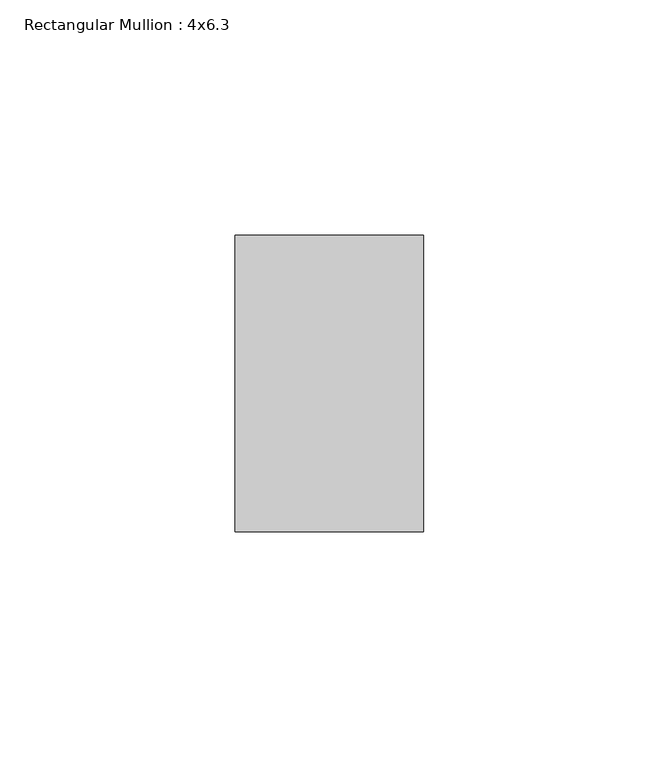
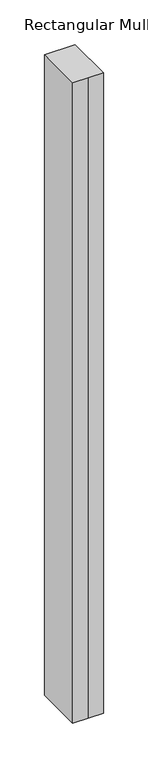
"""IFC4 building model written with IfcOpenShell, lengths in millimetres: member geometry, Rectangular Mullion : 4x6.3."""

import ifcopenshell
import ifcopenshell.guid

model = None  # the IFC model being written
_history = None  # IfcOwnerHistory: only IFC2X3 demands one
_inside = {}  # id of a spatial element -> (the spatial element, [elements in it])
_under = {}  # id of a project, library or spatial element -> (it, [spatial elements below it])
_declared = {}  # id of a project -> (the project, [libraries it declares])
_typed = {}  # id of a type object -> (the type object, [elements of that type])
_made_of = {}  # id of a material, layer set ... -> (it, [elements and type objects made of it])


def new_model(schema):
    """Start an empty IFC model of exactly this schema.

    Asked for "IFC4X3", IfcOpenShell would pick the latest addendum, in which some entities
    have other attributes; the version numbers below select the first issue.
    IFC2X3 requires an IfcOwnerHistory on every rooted entity: one is made here for all.
    """
    global model, _history
    if schema == "IFC4X3":
        model = ifcopenshell.file(schema_version=(4, 3, 0, 0))
    else:
        model = ifcopenshell.file(schema=schema)
    _inside.clear()
    _under.clear()
    _declared.clear()
    _typed.clear()
    _made_of.clear()
    _history = None
    if model.schema == "IFC2X3":
        org = make("IfcOrganization", Name="unknown")
        user = make(
            "IfcPersonAndOrganization",
            ThePerson=make("IfcPerson", FamilyName="unknown"),
            TheOrganization=org,
        )
        app = make(
            "IfcApplication",
            ApplicationDeveloper=org,
            Version="unknown",
            ApplicationFullName="unknown",
            ApplicationIdentifier="unknown",
        )
        _history = make(
            "IfcOwnerHistory",
            OwningUser=user,
            OwningApplication=app,
            ChangeAction="ADDED",
            CreationDate=0,
        )
    return model


def make(cls, **values):
    """One entity of the class cls with the attributes given. An attribute that is None is left unset."""
    return model.create_entity(
        cls, **{name: value for name, value in values.items() if value is not None}
    )


def rooted(cls, **values):
    """An entity with a GlobalId (a new one), such as an element, a storey or a relation."""
    return make(cls, GlobalId=ifcopenshell.guid.new(), OwnerHistory=_history, **values)


def si_unit(unit_type, name, prefix=None):
    """IfcSIUnit, for example si_unit("LENGTHUNIT", "METRE", prefix="MILLI")."""
    return make("IfcSIUnit", UnitType=unit_type, Prefix=prefix, Name=name)


def assignment(units):
    """IfcUnitAssignment: the units of a project."""
    return None if units is None else make("IfcUnitAssignment", Units=units)


def point(xyz):
    """IfcCartesianPoint."""
    return None if xyz is None else make("IfcCartesianPoint", Coordinates=xyz)


def direction(xyz):
    """IfcDirection."""
    return None if xyz is None else make("IfcDirection", DirectionRatios=xyz)


def frame(location, z_axis=None, x_axis=None):
    """IfcAxis2Placement3D, a coordinate frame: its origin and axes. An axis left out is left unset."""
    return make(
        "IfcAxis2Placement3D",
        Location=point(location),
        Axis=direction(z_axis),
        RefDirection=direction(x_axis),
    )


def origin():
    """The frame at (0, 0, 0) with its axes left unset."""
    return frame((0.0, 0.0, 0.0))


def place(relative_to, where):
    """IfcLocalPlacement: puts the frame where relative to a parent placement (None: the world)."""
    return make(
        "IfcLocalPlacement", PlacementRelTo=relative_to, RelativePlacement=where
    )


def context(
    kind, dimensions, precision=None, world=None, true_north=None, identifier=None
):
    """IfcGeometricRepresentationContext, for example the 3D "Model" context."""
    return make(
        "IfcGeometricRepresentationContext",
        ContextIdentifier=identifier,
        ContextType=kind,
        CoordinateSpaceDimension=dimensions,
        Precision=precision,
        WorldCoordinateSystem=world,
        TrueNorth=true_north,
    )


def project(units=None, contexts=None):
    """IfcProject with its units and contexts."""
    return rooted(
        "IfcProject",
        Name="project",
        RepresentationContexts=contexts,
        UnitsInContext=assignment(units),
    )


def spatial(cls, under=None, at=None, **own):
    """A site, building, storey or space (cls), placed at a placement, below another one or the project."""
    s = rooted(cls, ObjectPlacement=at, **own)
    if under is not None:
        _under.setdefault(under.id(), (under, []))[1].append(s)
    return s


def polyline(points):
    """IfcPolyline through the points."""
    return make("IfcPolyline", Points=[point(p) for p in points])


def outline(outer, holes=None, kind="AREA"):
    """IfcArbitraryClosedProfileDef: a profile drawn as a closed curve; with holes, ...WithVoids."""
    if holes is None:
        return make("IfcArbitraryClosedProfileDef", ProfileType=kind, OuterCurve=outer)
    return make(
        "IfcArbitraryProfileDefWithVoids",
        ProfileType=kind,
        OuterCurve=outer,
        InnerCurves=holes,
    )


def extrude(swept, where, along, depth):
    """IfcExtrudedAreaSolid: the profile swept, set in the frame where, extruded along a direction by depth."""
    return make(
        "IfcExtrudedAreaSolid",
        SweptArea=swept,
        Position=where,
        ExtrudedDirection=direction(along),
        Depth=depth,
    )


def shape(context_of_items, identifier, shape_type, items):
    """IfcShapeRepresentation: the items that make up one representation, for example the "Body"."""
    return make(
        "IfcShapeRepresentation",
        ContextOfItems=context_of_items,
        RepresentationIdentifier=identifier,
        RepresentationType=shape_type,
        Items=items,
    )


def source(mapping_origin, context_of_items, identifier, shape_type, items):
    """IfcRepresentationMap: a shape defined once, which mapped items show again and again."""
    return make(
        "IfcRepresentationMap",
        MappingOrigin=mapping_origin,
        MappedRepresentation=shape(context_of_items, identifier, shape_type, items),
    )


def transform(
    local_origin,
    x_axis=None,
    y_axis=None,
    z_axis=None,
    scale=None,
    scale2=None,
    scale3=None,
    uniform=True,
):
    """IfcCartesianTransformationOperator3D, or its non-uniform kind. x_axis, y_axis, z_axis: its Axis1, 2, 3."""
    if uniform:
        return make(
            "IfcCartesianTransformationOperator3D",
            Axis1=direction(x_axis),
            Axis2=direction(y_axis),
            LocalOrigin=point(local_origin),
            Scale=scale,
            Axis3=direction(z_axis),
        )
    return make(
        "IfcCartesianTransformationOperator3DnonUniform",
        Axis1=direction(x_axis),
        Axis2=direction(y_axis),
        LocalOrigin=point(local_origin),
        Scale=scale,
        Axis3=direction(z_axis),
        Scale2=scale2,
        Scale3=scale3,
    )


def mapped(mapping_source, mapping_target):
    """IfcMappedItem: shows the shape of a source again, moved by a transform."""
    return make(
        "IfcMappedItem", MappingSource=mapping_source, MappingTarget=mapping_target
    )


def made_of(thing, what):
    """Note that an element or type object is made of a material, layer set ...; save() writes the relation."""
    if what is not None:
        _made_of.setdefault(what.id(), (what, []))[1].append(thing)
    return thing


def element(
    cls,
    number,
    at=None,
    inside=None,
    cuts=None,
    type_object=None,
    material=None,
    context=None,
    identifier="Body",
    shape_type=None,
    held_by="IfcProductDefinitionShape",
    body=None,
    shapes=None,
    **own,
):
    """One element of the class cls, such as IfcWall. Its Tag is "e" and its number.

    at: its placement. inside: the storey or other place that contains it. cuts: it is an
    opening in that element (IfcRelVoidsElement). A single representation is given by context,
    identifier, shape_type and body (its items); several are given by shapes. held_by: the class
    of the entity that holds the representations. save() writes the other relations.
    """
    e = rooted(cls, Tag="e%d" % number, ObjectPlacement=at, **own)
    if body is not None:
        shapes = [shape(context, identifier, shape_type, body)]
    if shapes is not None:
        e.Representation = make(held_by, Representations=shapes)
    if inside is not None:
        _inside.setdefault(inside.id(), (inside, []))[1].append(e)
    if cuts is not None:
        rooted(
            "IfcRelVoidsElement", RelatingBuildingElement=cuts, RelatedOpeningElement=e
        )
    if type_object is not None:
        _typed.setdefault(type_object.id(), (type_object, []))[1].append(e)
    return made_of(e, material)


def aggregate(whole, parts):
    """IfcRelAggregates: a whole, such as a stair, and the parts it consists of."""
    return rooted("IfcRelAggregates", RelatingObject=whole, RelatedObjects=parts)


def save(model, path):
    """Write the relations noted so far, then the file.

    IfcRelAggregates (storeys below a building ...), IfcRelContainedInSpatialStructure (elements
    in a storey), IfcRelDefinesByType, IfcRelAssociatesMaterial and IfcRelDeclares: one each for
    every whole, place, type object, material and project.
    """
    for whole, parts in _under.values():
        aggregate(whole, parts)
    for where, things in _inside.values():
        rooted(
            "IfcRelContainedInSpatialStructure",
            RelatedElements=things,
            RelatingStructure=where,
        )
    for kind, things in _typed.values():
        rooted("IfcRelDefinesByType", RelatedObjects=things, RelatingType=kind)
    for what, things in _made_of.values():
        rooted("IfcRelAssociatesMaterial", RelatedObjects=things, RelatingMaterial=what)
    for by, libraries in _declared.values():
        rooted("IfcRelDeclares", RelatingContext=by, RelatedDefinitions=libraries)
    model.write(path)


def rectangular_mullion_4x6_3_0dc9469a(model_context):
    return source(origin(), model_context, "Body", "SweptSolid", [
        extrude(outline(polyline([(-20.0, 20.0), (-20.0, 83.0), (20.0, 83.0), (20.0, 20.0), (0.0, 20.0), (-20.0, 20.0)])), frame((0.0, 0.0, -876.9519056), z_axis=(0.0, 0.0, 1.0), x_axis=(1.0, 0.0, 0.0)), (0.0, 0.0, 1.0), 876.9519056),
    ])


if __name__ == "__main__":
    model = new_model("IFC4")
    model_context = context("Model", 3, world=origin())
    ifc_project = project(units=[si_unit("LENGTHUNIT", "METRE", prefix="MILLI")], contexts=[model_context])
    site = spatial("IfcSite", under=ifc_project)
    building = spatial("IfcBuilding", under=site)
    placement = place(None, origin())
    rectangular_mullion_4x6_3_shape = rectangular_mullion_4x6_3_0dc9469a(model_context)
    element("IfcMember", 1, ObjectType="Rectangular Mullion : 4x6.3", at=placement, inside=building, context=model_context, shape_type="MappedRepresentation", body=[
        mapped(rectangular_mullion_4x6_3_shape, transform((0.0, 0.0, 0.0), x_axis=(1.0, 0.0, 0.0), y_axis=(0.0, 1.0, 0.0), z_axis=(0.0, 0.0, 1.0))),
    ])
    save(model, "model.ifc")
